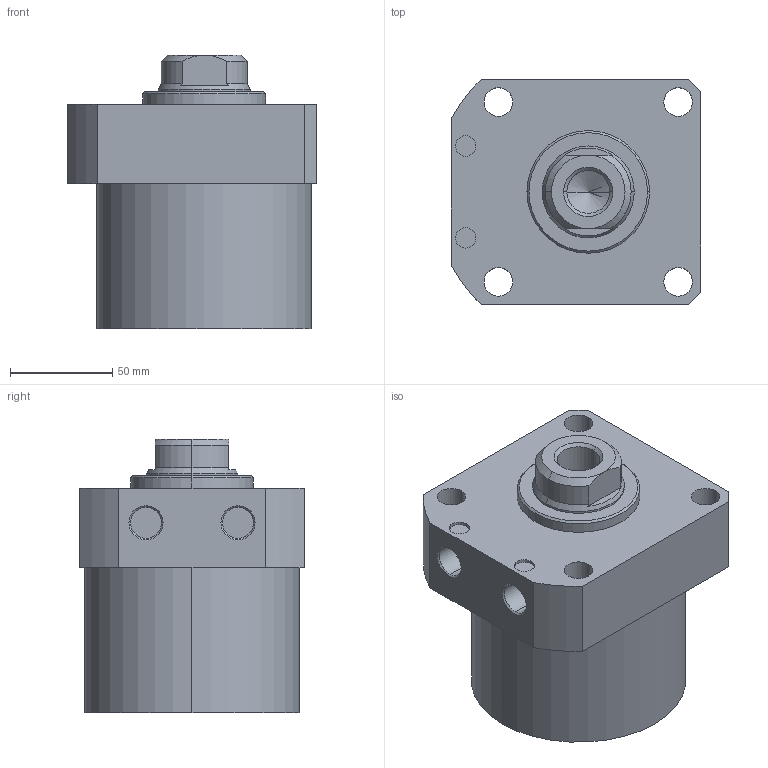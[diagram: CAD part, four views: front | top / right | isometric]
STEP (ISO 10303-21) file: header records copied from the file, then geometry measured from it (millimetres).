
FILE_DESCRIPTION (( 'STEP AP203' ), '1' );
FILE_NAME ('CLLR-105CA-050.STEP', '2019-12-19T01:32:37', ( '' ), ( '' ), 'SwSTEP 2.0', 'SolidWorks 2015', '' );
FILE_SCHEMA (( 'CONFIG_CONTROL_DESIGN' ));
Length unit declared in the file: millimetre
Products named in the file (1): CLLR-105CA-050
Bounding box: 122 x 110 x 134 mm (x, y, z)
Volume: 1116935.7 mm3; surface area: 81064.2 mm2
Topology: 1 solids, 1 shells, 63 faces, 146 edges, 91 vertices
Faces by surface type: cylinder 29, plane 19, cone 15
Entity records: 1923 total; most frequent: CARTESIAN_POINT 355, DIRECTION 336, ORIENTED_EDGE 288, EDGE_CURVE 144, AXIS2_PLACEMENT_3D 136, VERTEX_POINT 91, EDGE_LOOP 79, CIRCLE 72
